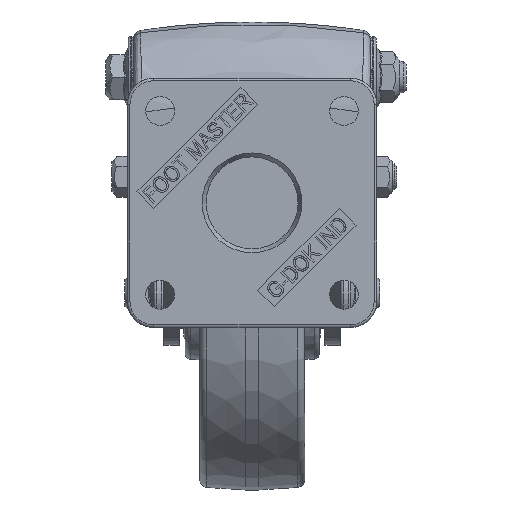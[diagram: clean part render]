
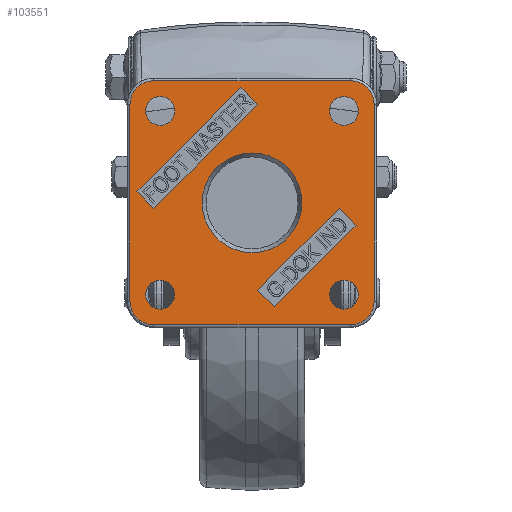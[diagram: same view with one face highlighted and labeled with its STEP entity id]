
A CAD part, top view. The second image highlights one B-rep face of the part: STEP entity #103551.
In plain terms, the highlighted planar face has unit normal (0, 0, 1).
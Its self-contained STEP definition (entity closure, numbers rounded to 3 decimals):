
#65558=CARTESIAN_POINT('',(-19.0,0.,10.7));
#65559=VERTEX_POINT('',#65558);
#65560=CARTESIAN_POINT('',(0.0,0.0,10.7));
#65561=DIRECTION('',(0.0,0.0,-1.0));
#65562=DIRECTION('',(1.0,0.0,0.0));
#65563=AXIS2_PLACEMENT_3D('',#65560,#65561,#65562);
#65564=CIRCLE('',#65563,19.0);
#65565=EDGE_CURVE('',#65559,#65559,#65564,.T.);
#65597=CARTESIAN_POINT('',(29.5,35.,10.7));
#65598=VERTEX_POINT('',#65597);
#65599=CARTESIAN_POINT('',(35.,35.,10.7));
#65600=DIRECTION('',(0.0,0.0,-1.0));
#65601=DIRECTION('',(1.0,0.0,0.0));
#65602=AXIS2_PLACEMENT_3D('',#65599,#65600,#65601);
#65603=CIRCLE('',#65602,5.5);
#65604=EDGE_CURVE('',#65598,#65598,#65603,.T.);
#65625=CARTESIAN_POINT('',(-35.,29.5,10.7));
#65626=VERTEX_POINT('',#65625);
#65627=CARTESIAN_POINT('',(-35.,35.,10.7));
#65628=DIRECTION('',(0.0,0.0,-1.0));
#65629=DIRECTION('',(0.0,1.0,0.0));
#65630=AXIS2_PLACEMENT_3D('',#65627,#65628,#65629);
#65631=CIRCLE('',#65630,5.5);
#65632=EDGE_CURVE('',#65626,#65626,#65631,.T.);
#65653=CARTESIAN_POINT('',(-29.5,-35.,10.7));
#65654=VERTEX_POINT('',#65653);
#65655=CARTESIAN_POINT('',(-35.,-35.,10.7));
#65656=DIRECTION('',(0.0,0.0,-1.0));
#65657=DIRECTION('',(-1.0,0.0,0.0));
#65658=AXIS2_PLACEMENT_3D('',#65655,#65656,#65657);
#65659=CIRCLE('',#65658,5.5);
#65660=EDGE_CURVE('',#65654,#65654,#65659,.T.);
#65681=CARTESIAN_POINT('',(35.,-29.5,10.7));
#65682=VERTEX_POINT('',#65681);
#65683=CARTESIAN_POINT('',(35.,-35.,10.7));
#65684=DIRECTION('',(0.0,0.0,-1.0));
#65685=DIRECTION('',(0.0,-1.0,0.0));
#65686=AXIS2_PLACEMENT_3D('',#65683,#65684,#65685);
#65687=CIRCLE('',#65686,5.5);
#65688=EDGE_CURVE('',#65682,#65682,#65687,.T.);
#103176=CARTESIAN_POINT('',(46.5,37.5,10.7));
#103177=VERTEX_POINT('',#103176);
#103185=CARTESIAN_POINT('',(46.5,-37.5,10.7));
#103186=VERTEX_POINT('',#103185);
#103187=CARTESIAN_POINT('',(46.5,37.5,10.7));
#103188=DIRECTION('',(0.0,-1.0,0.0));
#103189=VECTOR('',#103188,75.);
#103190=LINE('',#103187,#103189);
#103191=EDGE_CURVE('',#103177,#103186,#103190,.T.);
#103217=CARTESIAN_POINT('',(37.5,46.5,10.7));
#103218=VERTEX_POINT('',#103217);
#103226=CARTESIAN_POINT('',(37.5,37.5,10.7));
#103227=DIRECTION('',(0.0,0.0,-1.));
#103228=DIRECTION('',(0.707,0.707,0.0));
#103229=AXIS2_PLACEMENT_3D('',#103226,#103227,#103228);
#103230=CIRCLE('',#103229,9.);
#103231=EDGE_CURVE('',#103218,#103177,#103230,.T.);
#103242=CARTESIAN_POINT('',(37.5,-46.5,10.7));
#103243=VERTEX_POINT('',#103242);
#103244=CARTESIAN_POINT('',(37.5,-37.5,10.7));
#103245=DIRECTION('',(0.0,0.0,-1.));
#103246=DIRECTION('',(0.707,-0.707,0.0));
#103247=AXIS2_PLACEMENT_3D('',#103244,#103245,#103246);
#103248=CIRCLE('',#103247,9.);
#103249=EDGE_CURVE('',#103186,#103243,#103248,.T.);
#103276=CARTESIAN_POINT('',(-37.5,46.5,10.7));
#103277=VERTEX_POINT('',#103276);
#103285=CARTESIAN_POINT('',(-37.5,46.5,10.7));
#103286=DIRECTION('',(1.0,0.0,0.0));
#103287=VECTOR('',#103286,75.0);
#103288=LINE('',#103285,#103287);
#103289=EDGE_CURVE('',#103277,#103218,#103288,.T.);
#103300=CARTESIAN_POINT('',(-37.5,-46.5,10.7));
#103301=VERTEX_POINT('',#103300);
#103302=CARTESIAN_POINT('',(37.5,-46.5,10.7));
#103303=DIRECTION('',(-1.0,0.0,0.0));
#103304=VECTOR('',#103303,75.0);
#103305=LINE('',#103302,#103304);
#103306=EDGE_CURVE('',#103243,#103301,#103305,.T.);
#103334=CARTESIAN_POINT('',(-46.5,37.5,10.7));
#103335=VERTEX_POINT('',#103334);
#103343=CARTESIAN_POINT('',(-37.5,37.5,10.7));
#103344=DIRECTION('',(0.0,0.0,-1.));
#103345=DIRECTION('',(-0.707,0.707,0.0));
#103346=AXIS2_PLACEMENT_3D('',#103343,#103344,#103345);
#103347=CIRCLE('',#103346,9.);
#103348=EDGE_CURVE('',#103335,#103277,#103347,.T.);
#103359=CARTESIAN_POINT('',(-46.5,-37.5,10.7));
#103360=VERTEX_POINT('',#103359);
#103361=CARTESIAN_POINT('',(-37.5,-37.5,10.7));
#103362=DIRECTION('',(0.0,0.0,-1.));
#103363=DIRECTION('',(-0.707,-0.707,0.0));
#103364=AXIS2_PLACEMENT_3D('',#103361,#103362,#103363);
#103365=CIRCLE('',#103364,9.);
#103366=EDGE_CURVE('',#103301,#103360,#103365,.T.);
#103392=CARTESIAN_POINT('',(-46.5,-37.5,10.7));
#103393=DIRECTION('',(0.0,1.0,0.0));
#103394=VECTOR('',#103393,75.);
#103395=LINE('',#103392,#103394);
#103396=EDGE_CURVE('',#103360,#103335,#103395,.T.);
#103453=CARTESIAN_POINT('',(0.,0.,10.7));
#103454=DIRECTION('',(0.0,0.0,-1.0));
#103455=DIRECTION('',(-1.0,0.0,0.0));
#103456=AXIS2_PLACEMENT_3D('',#103453,#103454,#103455);
#103457=PLANE('',#103456);
#103458=ORIENTED_EDGE('',*,*,#103191,.F.);
#103459=ORIENTED_EDGE('',*,*,#103231,.F.);
#103460=ORIENTED_EDGE('',*,*,#103289,.F.);
#103461=ORIENTED_EDGE('',*,*,#103348,.F.);
#103462=ORIENTED_EDGE('',*,*,#103396,.F.);
#103463=ORIENTED_EDGE('',*,*,#103366,.F.);
#103464=ORIENTED_EDGE('',*,*,#103306,.F.);
#103465=ORIENTED_EDGE('',*,*,#103249,.F.);
#103466=EDGE_LOOP('',(#103458,#103459,#103460,#103461,#103462,#103463,#103464,#103465));
#103467=FACE_OUTER_BOUND('',#103466,.T.);
#103468=ORIENTED_EDGE('',*,*,#65565,.T.);
#103469=EDGE_LOOP('',(#103468));
#103470=FACE_BOUND('',#103469,.T.);
#103471=ORIENTED_EDGE('',*,*,#65604,.T.);
#103472=EDGE_LOOP('',(#103471));
#103473=FACE_BOUND('',#103472,.T.);
#103474=ORIENTED_EDGE('',*,*,#65632,.T.);
#103475=EDGE_LOOP('',(#103474));
#103476=FACE_BOUND('',#103475,.T.);
#103477=ORIENTED_EDGE('',*,*,#65660,.T.);
#103478=EDGE_LOOP('',(#103477));
#103479=FACE_BOUND('',#103478,.T.);
#103480=ORIENTED_EDGE('',*,*,#65688,.T.);
#103481=EDGE_LOOP('',(#103480));
#103482=FACE_BOUND('',#103481,.T.);
#103483=CARTESIAN_POINT('',(-43.841,4.243,10.7));
#103484=VERTEX_POINT('',#103483);
#103485=CARTESIAN_POINT('',(-4.243,43.841,10.7));
#103486=VERTEX_POINT('',#103485);
#103487=CARTESIAN_POINT('',(-43.841,4.243,10.7));
#103488=DIRECTION('',(0.707,0.707,0.0));
#103489=VECTOR('',#103488,56.);
#103490=LINE('',#103487,#103489);
#103491=EDGE_CURVE('',#103484,#103486,#103490,.T.);
#103492=ORIENTED_EDGE('',*,*,#103491,.T.);
#103493=CARTESIAN_POINT('',(2.121,37.477,10.7));
#103494=VERTEX_POINT('',#103493);
#103495=CARTESIAN_POINT('',(-4.243,43.841,10.7));
#103496=DIRECTION('',(0.707,-0.707,0.0));
#103497=VECTOR('',#103496,9.);
#103498=LINE('',#103495,#103497);
#103499=EDGE_CURVE('',#103486,#103494,#103498,.T.);
#103500=ORIENTED_EDGE('',*,*,#103499,.T.);
#103501=CARTESIAN_POINT('',(-37.477,-2.121,10.7));
#103502=VERTEX_POINT('',#103501);
#103503=CARTESIAN_POINT('',(2.121,37.477,10.7));
#103504=DIRECTION('',(-0.707,-0.707,0.0));
#103505=VECTOR('',#103504,56.0);
#103506=LINE('',#103503,#103505);
#103507=EDGE_CURVE('',#103494,#103502,#103506,.T.);
#103508=ORIENTED_EDGE('',*,*,#103507,.T.);
#103509=CARTESIAN_POINT('',(-37.477,-2.121,10.7));
#103510=DIRECTION('',(-0.707,0.707,0.0));
#103511=VECTOR('',#103510,9.);
#103512=LINE('',#103509,#103511);
#103513=EDGE_CURVE('',#103502,#103484,#103512,.T.);
#103514=ORIENTED_EDGE('',*,*,#103513,.T.);
#103515=EDGE_LOOP('',(#103492,#103500,#103508,#103514));
#103516=FACE_BOUND('',#103515,.T.);
#103517=CARTESIAN_POINT('',(39.598,-8.485,10.7));
#103518=VERTEX_POINT('',#103517);
#103519=CARTESIAN_POINT('',(8.485,-39.598,10.7));
#103520=VERTEX_POINT('',#103519);
#103521=CARTESIAN_POINT('',(39.598,-8.485,10.7));
#103522=DIRECTION('',(-0.707,-0.707,0.0));
#103523=VECTOR('',#103522,44.0);
#103524=LINE('',#103521,#103523);
#103525=EDGE_CURVE('',#103518,#103520,#103524,.T.);
#103526=ORIENTED_EDGE('',*,*,#103525,.T.);
#103527=CARTESIAN_POINT('',(2.121,-33.234,10.7));
#103528=VERTEX_POINT('',#103527);
#103529=CARTESIAN_POINT('',(8.485,-39.598,10.7));
#103530=DIRECTION('',(-0.707,0.707,0.0));
#103531=VECTOR('',#103530,9.);
#103532=LINE('',#103529,#103531);
#103533=EDGE_CURVE('',#103520,#103528,#103532,.T.);
#103534=ORIENTED_EDGE('',*,*,#103533,.T.);
#103535=CARTESIAN_POINT('',(33.234,-2.121,10.7));
#103536=VERTEX_POINT('',#103535);
#103537=CARTESIAN_POINT('',(2.121,-33.234,10.7));
#103538=DIRECTION('',(0.707,0.707,0.0));
#103539=VECTOR('',#103538,44.);
#103540=LINE('',#103537,#103539);
#103541=EDGE_CURVE('',#103528,#103536,#103540,.T.);
#103542=ORIENTED_EDGE('',*,*,#103541,.T.);
#103543=CARTESIAN_POINT('',(33.234,-2.121,10.7));
#103544=DIRECTION('',(0.707,-0.707,0.0));
#103545=VECTOR('',#103544,9.);
#103546=LINE('',#103543,#103545);
#103547=EDGE_CURVE('',#103536,#103518,#103546,.T.);
#103548=ORIENTED_EDGE('',*,*,#103547,.T.);
#103549=EDGE_LOOP('',(#103526,#103534,#103542,#103548));
#103550=FACE_BOUND('',#103549,.T.);
#103551=ADVANCED_FACE('',(#103467,#103470,#103473,#103476,#103479,#103482,#103516,#103550),#103457,.F.);
